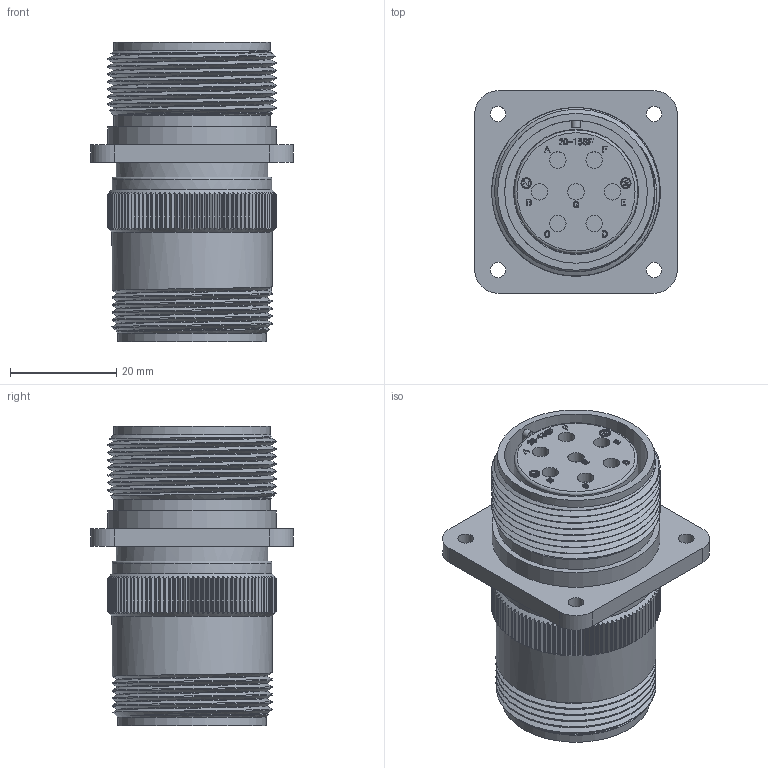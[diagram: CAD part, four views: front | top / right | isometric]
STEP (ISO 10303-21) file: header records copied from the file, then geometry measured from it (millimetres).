
FILE_DESCRIPTION (( 'STEP AP203' ), '1' );
FILE_NAME ('DMS3100A20-15S.STEP', '2022-02-18T07:59:56', ( '' ), ( '' ), 'SwSTEP 2.0', 'SolidWorks 2018', '' );
FILE_SCHEMA (( 'CONFIG_CONTROL_DESIGN' ));
Products named in the file (1): DMS3100A20-15S
Bounding box: 38.1 x 38.1 x 56.3 mm (x, y, z)
Volume: 28038.6 mm3; surface area: 17502.9 mm2
Topology: 1 solids, 1 shells, 1371 faces, 3850 edges, 2560 vertices
Faces by surface type: plane 567, cylinder 513, bspline 278, torus 8, cone 5
Full cylindrical faces by diameter (mm): 1.7 x2, 2 x2, 2.85 x7, 2.93 x4, 3.1 x7, 3.79 x7, 3.9 x7, 20.62 x1, 23.24 x1, 23.55 x1, 24.6 x1, 26.87 x1, 27.92 x1, 28.53 x1, 28.56 x1, 29.52 x2, 30.07 x1, 30.12 x5, 31.71 x1
Entity records: 59781 total; most frequent: CARTESIAN_POINT 28625, ORIENTED_EDGE 7488, DIRECTION 4658, EDGE_CURVE 3744, VERTEX_POINT 2515, LINE 1748, VECTOR 1748, B_SPLINE_CURVE_WITH_KNOTS 1609
